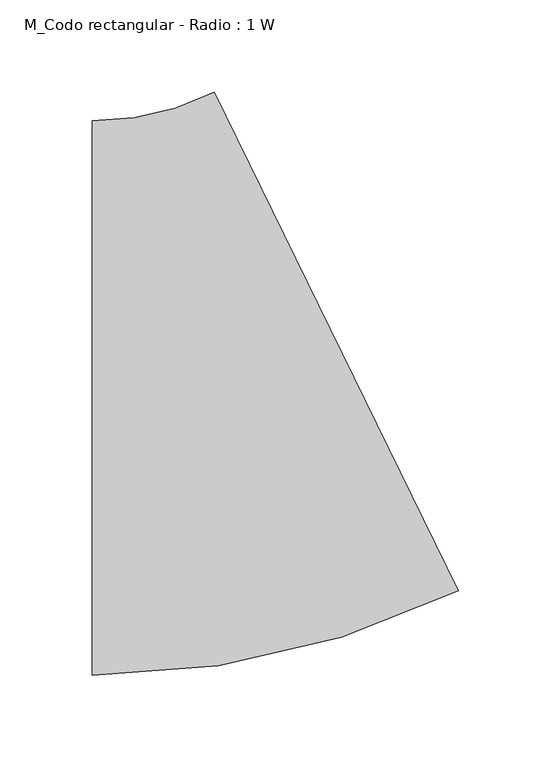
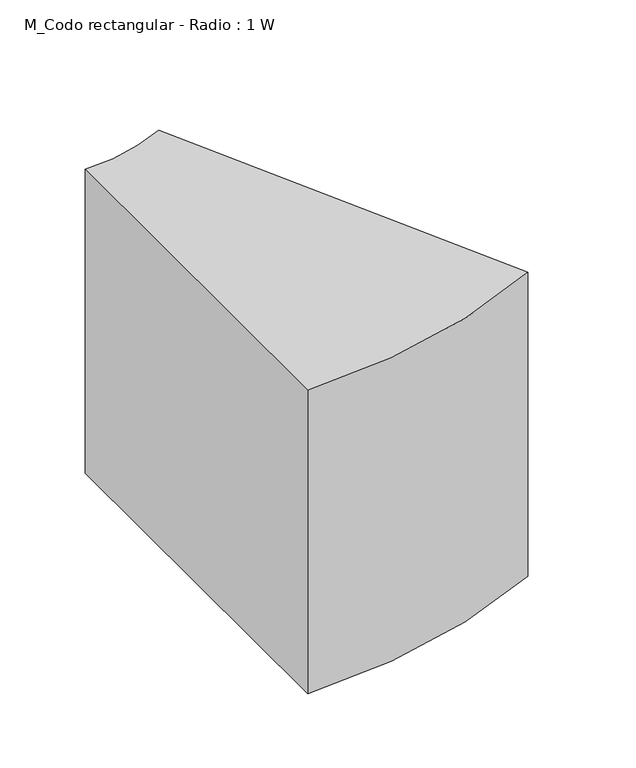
"""IFC4 building model written with IfcOpenShell, lengths in millimetres: duct fitting geometry, M_Codo rectangular - Radio : 1 W."""

from ifc_helpers import new_model, si_unit, point, frame, frame_2d, origin, place, context, project, spatial, polyline, circle_curve, trimmed, segment, composite_curve, outline, extrude, source, transform, mapped, element, save


def m_codo_rectangular_radio_1_w_b4c0e07a(model_context):
    return source(origin(), model_context, "Body", "SweptSolid", [
        extrude(outline(composite_curve([segment(trimmed(circle_curve(frame_2d((-69.4976861, 300.0)), 450.0), [point((128.3762928, -104.1607211))], [point((-69.4976861, -150.0))], False, "CARTESIAN"), True, "CONTINUOUS"), segment(polyline([(-69.4976861, -150.0), (-69.4976861, 150.0)]), True, "CONTINUOUS"), segment(trimmed(circle_curve(frame_2d((-69.4976861, 300.0)), 150.0), [point((-69.4976861, 150.0))], [point((-3.5396931, 165.2797596))], True, "CARTESIAN"), True, "CONTINUOUS"), segment(polyline([(-3.5396931, 165.2797596), (128.3762928, -104.1607211)]), True, "CONTINUOUS")], self_intersect=False)), frame((0.0, 0.0, -125.0), z_axis=(0.0, 0.0, 1.0), x_axis=(1.0, 0.0, 0.0)), (0.0, 0.0, 1.0), 250.0),
    ])


if __name__ == "__main__":
    model = new_model("IFC4")
    model_context = context("Model", 3, world=origin())
    ifc_project = project(units=[si_unit("LENGTHUNIT", "METRE", prefix="MILLI")], contexts=[model_context])
    site = spatial("IfcSite", under=ifc_project)
    building = spatial("IfcBuilding", under=site)
    placement = place(None, origin())
    m_codo_rectangular_radio_1_w_shape = m_codo_rectangular_radio_1_w_b4c0e07a(model_context)
    element("IfcDuctFitting", 1, ObjectType="M_Codo rectangular - Radio : 1 W", at=placement, inside=building, context=model_context, shape_type="MappedRepresentation", body=[
        mapped(m_codo_rectangular_radio_1_w_shape, transform((0.0, 0.0, 0.0), x_axis=(1.0, 0.0, 0.0), y_axis=(0.0, 1.0, 0.0), z_axis=(0.0, 0.0, 1.0))),
    ])
    save(model, "model.ifc")
